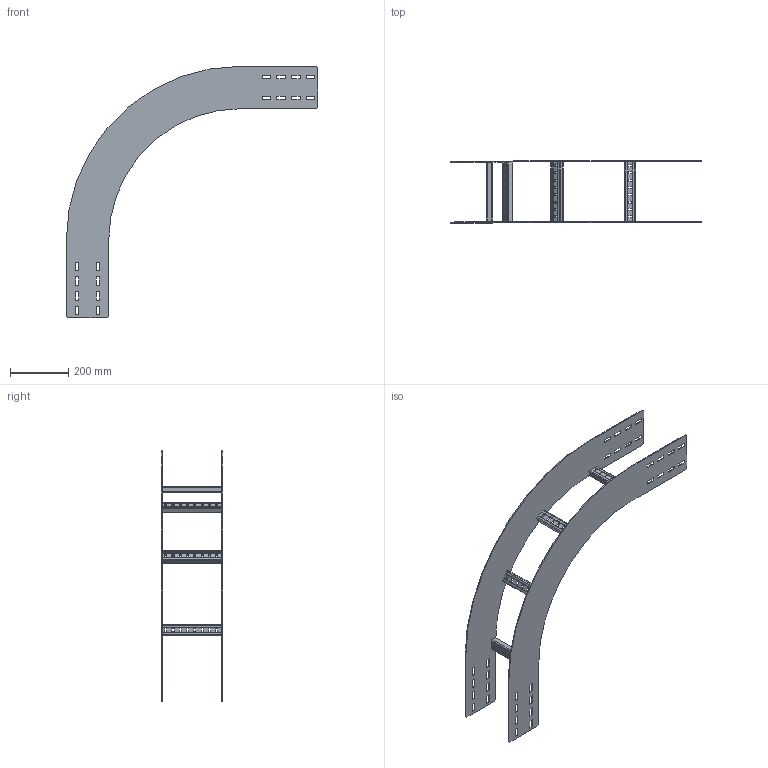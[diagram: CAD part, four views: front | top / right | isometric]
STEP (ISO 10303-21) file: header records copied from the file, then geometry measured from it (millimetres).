
FILE_DESCRIPTION(('Creo Elements/Direct Modeling STEP Export'),'2;1');
FILE_NAME('WPOR15-20-90-45.stp','2016-06-02T11:55:53',(''),(''),'PTC Creo Elements/Direct Modeling STEP processor for AP214 (Solid Model)','PTC Creo Elements/Direct Modeling 19.0C 15-Aug-2015 (C) Parametric Technology GmbH','');
FILE_SCHEMA(('AUTOMOTIVE_DESIGN { 1 0 10303 214 1 1 1 1 }'));
Length unit declared in the file: millimetre
Products named in the file (3): WPIBG150_450.1; WPHBS20; WPOR15-20-90-45
Assembly tree (6 placements, depth 2):
  WPOR15-20-90-45
    WPHBS20  x4
    WPIBG150_450.1  x2
Bounding box: 860 x 211 x 860 mm (x, y, z)
Volume: 1261469.1 mm3; surface area: 952286.8 mm2
Topology: 6 solids, 6 shells, 444 faces, 1296 edges, 864 vertices
Faces by surface type: plane 304, cylinder 140
Entity records: 5137 total; most frequent: CARTESIAN_POINT 887, ORIENTED_EDGE 876, DIRECTION 824, EDGE_CURVE 438, VECTOR 366, LINE 366, VERTEX_POINT 292, AXIS2_PLACEMENT_3D 229
